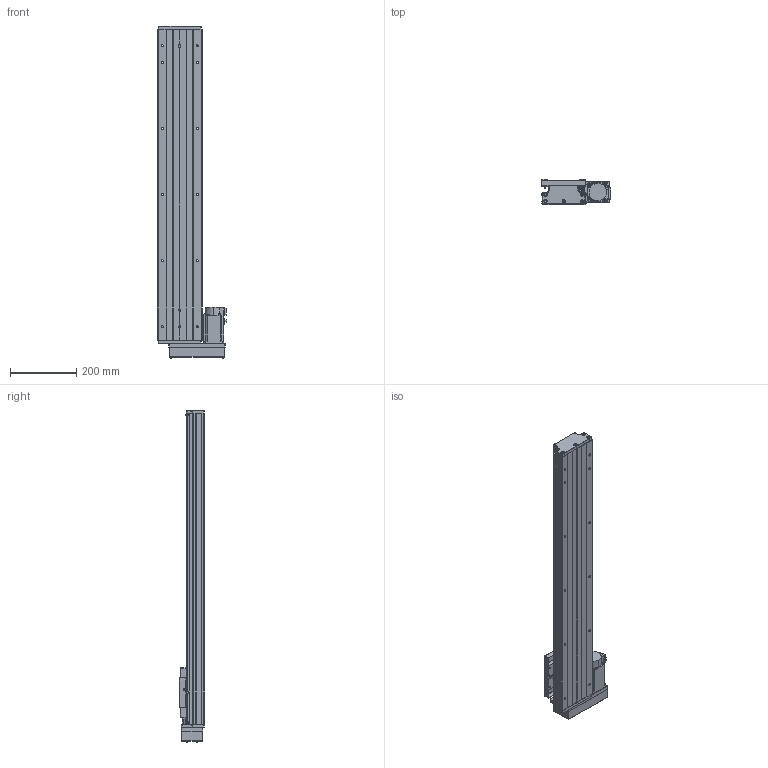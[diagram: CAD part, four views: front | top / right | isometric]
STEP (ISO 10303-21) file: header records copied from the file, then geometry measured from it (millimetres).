
FILE_DESCRIPTION (( 'STEP AP203' ), '1' );
FILE_NAME ('CTH130-750-BR-M40-C4.step', '2023-06-30T02:53:03', ( '微软用户' ), ( '微软中国' ), 'SwSTEP 2.0', 'SolidWorks 2020', '' );
FILE_SCHEMA (( 'CONFIG_CONTROL_DESIGN' ));
Length unit declared in the file: millimetre
Products named in the file (20): GB T308.1-2013-6.35; CTHA60-016; GBT 70.2-M4¡Á35_M4¡Á35; GTH14-004; GBT 70.1-M3℅5; GTH14-015-2_CTHA86-015-2; GTH14-005; GBT77-2000 M3×3; GTH14-033; GB1155-6X6; CTH130-031; CTH130-750-BR-M40-C4; GBT70.1 M5℅16; GBT 70.2-M3¡Á5_M3¡Á6; GTH14-001_750; CTHA60-017; す晦芛蹟隊 M3℅5; CTH130-002_GTH14-002; EE_SX911P_R; HG-KN43J-S100
Assembly tree (60 placements, depth 2):
  CTH130-750-BR-M40-C4
    GTH14-001_750
    CTH130-002_GTH14-002
    GB T308.1-2013-6.35  x2
    GTH14-004
    GTH14-005
    GB1155-6X6  x2
    GBT70.1 M5℅16  x10
    CTHA60-017  x3
    EE_SX911P_R  x3
    CTHA60-016  x2
    GBT 70.1-M3℅5  x6
    GBT77-2000 M3×3  x6
    CTH130-031
    GBT 70.2-M3¡Á5_M3¡Á6  x8
    す晦芛蹟隊 M3℅5  x6
    HG-KN43J-S100
    GBT 70.2-M4¡Á35_M4¡Á35  x4
    GTH14-015-2_CTHA86-015-2
    GTH14-033
Bounding box: 209.3 x 76 x 1004.2 mm (x, y, z)
Volume: 5347660.6 mm3; surface area: 891737.2 mm2
Topology: 63 solids, 63 shells, 2445 faces, 5821 edges, 3601 vertices
Faces by surface type: plane 1312, cylinder 654, cone 299, torus 124, sphere 36, bspline 20
Entity records: 44232 total; most frequent: CARTESIAN_POINT 9897, DIRECTION 6462, ORIENTED_EDGE 6348, EDGE_CURVE 3174, AXIS2_PLACEMENT_3D 2210, LINE 2042, VECTOR 2042, VERTEX_POINT 2011
